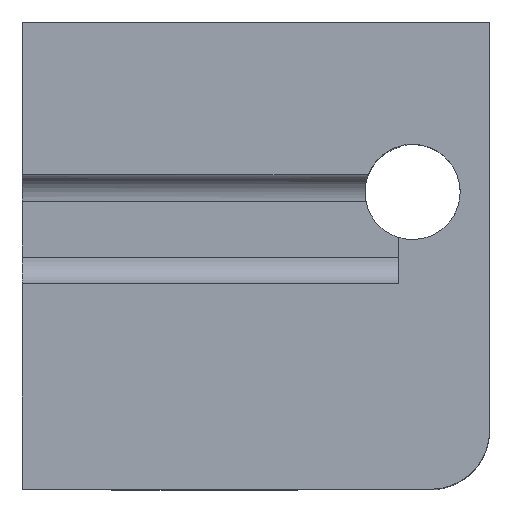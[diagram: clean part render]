
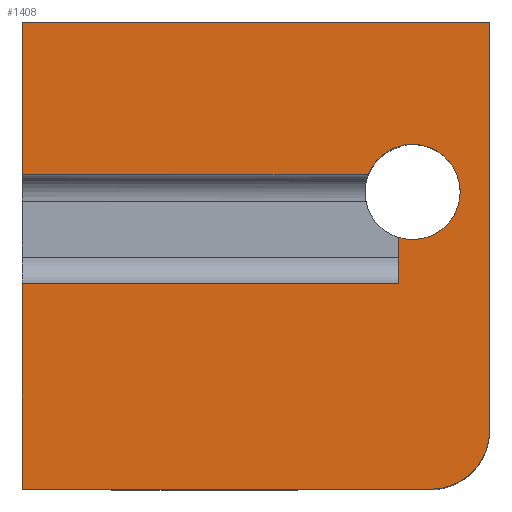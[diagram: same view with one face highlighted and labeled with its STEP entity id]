
A CAD part, top view. The second image highlights one B-rep face of the part: STEP entity #1408.
In plain terms, the highlighted planar face has unit normal (0, 0, 1).
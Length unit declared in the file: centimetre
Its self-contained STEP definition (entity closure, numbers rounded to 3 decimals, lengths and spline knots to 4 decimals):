
#1 = DIRECTION ( 'NONE',  ( 1., 0., 0. ) ) ;
#40 = AXIS2_PLACEMENT_3D ( 'NONE', #754, #1534, #1116 ) ;
#41 = AXIS2_PLACEMENT_3D ( 'NONE', #891, #1024, #900 ) ;
#44 = VERTEX_POINT ( 'NONE', #259 ) ;
#117 = EDGE_CURVE ( 'NONE', #44, #950, #1513, .T. ) ;
#150 = DIRECTION ( 'NONE',  ( 0., 0., 1. ) ) ;
#182 = CARTESIAN_POINT ( 'NONE',  ( 1000., 1000., 1000. ) ) ;
#186 = FACE_OUTER_BOUND ( 'NONE', #481, .T. ) ;
#193 = ORIENTED_EDGE ( 'NONE', *, *, #1039, .T. ) ;
#208 = CARTESIAN_POINT ( 'NONE',  ( 0., 0., 1000. ) ) ;
#209 = VECTOR ( 'NONE', #483, 100. ) ;
#236 = VECTOR ( 'NONE', #1057, 100. ) ;
#239 = VECTOR ( 'NONE', #1062, 100. ) ;
#245 = LINE ( 'NONE', #997, #209 ) ;
#259 = CARTESIAN_POINT ( 'NONE',  ( 805.205, 440.202, 1000. ) ) ;
#292 = AXIS2_PLACEMENT_3D ( 'NONE', #1587, #940, #570 ) ;
#318 = CARTESIAN_POINT ( 'NONE',  ( 0., 1000., 1000. ) ) ;
#334 = LINE ( 'NONE', #318, #236 ) ;
#336 = DIRECTION ( 'NONE',  ( -1., 0., 0. ) ) ;
#348 = ORIENTED_EDGE ( 'NONE', *, *, #796, .T. ) ;
#360 = DIRECTION ( 'NONE',  ( 0., 1., 0. ) ) ;
#388 = CARTESIAN_POINT ( 'NONE',  ( 805.205, 0., 1000. ) ) ;
#400 = CARTESIAN_POINT ( 'NONE',  ( 0., 1000., 1000. ) ) ;
#419 = CARTESIAN_POINT ( 'NONE',  ( 873.652, 126.348, 1000. ) ) ;
#434 = EDGE_CURVE ( 'NONE', #626, #678, #1584, .T. ) ;
#435 = VERTEX_POINT ( 'NONE', #704 ) ;
#454 = EDGE_CURVE ( 'NONE', #747, #735, #838, .T. ) ;
#481 = EDGE_LOOP ( 'NONE', ( #758, #830, #1194, #1101, #724, #193, #348, #987, #1417, #509, #694 ) ) ;
#483 = DIRECTION ( 'NONE',  ( -1., 0., 0. ) ) ;
#509 = ORIENTED_EDGE ( 'NONE', *, *, #894, .T. ) ;
#512 = CARTESIAN_POINT ( 'NONE',  ( 805.205, 539.0553, 1000. ) ) ;
#549 = CARTESIAN_POINT ( 'NONE',  ( 0., 0., 1000. ) ) ;
#563 = CARTESIAN_POINT ( 'NONE',  ( 0., 673.1225, 1000. ) ) ;
#565 = CARTESIAN_POINT ( 'NONE',  ( 1000., 1000., 1000. ) ) ;
#570 = DIRECTION ( 'NONE',  ( 1., 0., 0. ) ) ;
#626 = VERTEX_POINT ( 'NONE', #898 ) ;
#655 = VECTOR ( 'NONE', #336, 100. ) ;
#678 = VERTEX_POINT ( 'NONE', #563 ) ;
#687 = LINE ( 'NONE', #930, #1104 ) ;
#694 = ORIENTED_EDGE ( 'NONE', *, *, #718, .T. ) ;
#704 = CARTESIAN_POINT ( 'NONE',  ( 0., 440.202, 1000. ) ) ;
#718 = EDGE_CURVE ( 'NONE', #1281, #678, #334, .T. ) ;
#724 = ORIENTED_EDGE ( 'NONE', *, *, #1387, .F. ) ;
#735 = VERTEX_POINT ( 'NONE', #182 ) ;
#747 = VERTEX_POINT ( 'NONE', #1476 ) ;
#754 = CARTESIAN_POINT ( 'NONE',  ( 835.1303, 636.3586, 1000. ) ) ;
#758 = ORIENTED_EDGE ( 'NONE', *, *, #434, .F. ) ;
#796 = EDGE_CURVE ( 'NONE', #999, #959, #1353, .T. ) ;
#825 = CARTESIAN_POINT ( 'NONE',  ( 805.205, 440.202, 1000. ) ) ;
#830 = ORIENTED_EDGE ( 'NONE', *, *, #1619, .F. ) ;
#838 = LINE ( 'NONE', #565, #1589 ) ;
#871 = EDGE_CURVE ( 'NONE', #950, #1247, #1592, .T. ) ;
#891 = CARTESIAN_POINT ( 'NONE',  ( 835.1303, 636.3586, 1000. ) ) ;
#894 = EDGE_CURVE ( 'NONE', #735, #1281, #245, .T. ) ;
#898 = CARTESIAN_POINT ( 'NONE',  ( 740.1994, 673.1225, 1000. ) ) ;
#900 = DIRECTION ( 'NONE',  ( 1., 0., 0. ) ) ;
#930 = CARTESIAN_POINT ( 'NONE',  ( 0., 1000., 1000. ) ) ;
#939 = CIRCLE ( 'NONE', #41, 101.8011 ) ;
#940 = DIRECTION ( 'NONE',  ( 0., 0., 1. ) ) ;
#950 = VERTEX_POINT ( 'NONE', #512 ) ;
#959 = VERTEX_POINT ( 'NONE', #1295 ) ;
#961 = EDGE_CURVE ( 'NONE', #959, #747, #1307, .T. ) ;
#987 = ORIENTED_EDGE ( 'NONE', *, *, #961, .T. ) ;
#997 = CARTESIAN_POINT ( 'NONE',  ( 0., 1000., 1000. ) ) ;
#999 = VERTEX_POINT ( 'NONE', #549 ) ;
#1024 = DIRECTION ( 'NONE',  ( 0., 0., 1. ) ) ;
#1039 = EDGE_CURVE ( 'NONE', #435, #999, #687, .T. ) ;
#1057 = DIRECTION ( 'NONE',  ( 0., -1., 0. ) ) ;
#1062 = DIRECTION ( 'NONE',  ( 1., 0., 0. ) ) ;
#1089 = DIRECTION ( 'NONE',  ( 0., 1., 0. ) ) ;
#1101 = ORIENTED_EDGE ( 'NONE', *, *, #117, .F. ) ;
#1104 = VECTOR ( 'NONE', #1463, 100. ) ;
#1116 = DIRECTION ( 'NONE',  ( 1., 0., 0. ) ) ;
#1129 = VECTOR ( 'NONE', #360, 100. ) ;
#1134 = VECTOR ( 'NONE', #1, 100. ) ;
#1188 = LINE ( 'NONE', #825, #239 ) ;
#1194 = ORIENTED_EDGE ( 'NONE', *, *, #871, .F. ) ;
#1197 = PLANE ( 'NONE',  #292 ) ;
#1247 = VERTEX_POINT ( 'NONE', #1539 ) ;
#1281 = VERTEX_POINT ( 'NONE', #400 ) ;
#1295 = CARTESIAN_POINT ( 'NONE',  ( 873.652, 0., 1000. ) ) ;
#1307 = CIRCLE ( 'NONE', #1418, 126.348 ) ;
#1353 = LINE ( 'NONE', #208, #1134 ) ;
#1387 = EDGE_CURVE ( 'NONE', #435, #44, #1188, .T. ) ;
#1408 = ADVANCED_FACE ( 'NONE', ( #186 ), #1197, .T. ) ;
#1417 = ORIENTED_EDGE ( 'NONE', *, *, #454, .T. ) ;
#1418 = AXIS2_PLACEMENT_3D ( 'NONE', #419, #150, #1555 ) ;
#1463 = DIRECTION ( 'NONE',  ( 0., -1., 0. ) ) ;
#1476 = CARTESIAN_POINT ( 'NONE',  ( 1000., 126.348, 1000. ) ) ;
#1487 = CARTESIAN_POINT ( 'NONE',  ( 805.205, 673.1225, 1000. ) ) ;
#1513 = LINE ( 'NONE', #388, #1129 ) ;
#1534 = DIRECTION ( 'NONE',  ( 0., 0., 1. ) ) ;
#1539 = CARTESIAN_POINT ( 'NONE',  ( 936.9314, 636.3586, 1000. ) ) ;
#1555 = DIRECTION ( 'NONE',  ( 1., 0., 0. ) ) ;
#1584 = LINE ( 'NONE', #1487, #655 ) ;
#1587 = CARTESIAN_POINT ( 'NONE',  ( 0., 0., 1000. ) ) ;
#1589 = VECTOR ( 'NONE', #1089, 100. ) ;
#1592 = CIRCLE ( 'NONE', #40, 101.8011 ) ;
#1619 = EDGE_CURVE ( 'NONE', #1247, #626, #939, .T. ) ;
